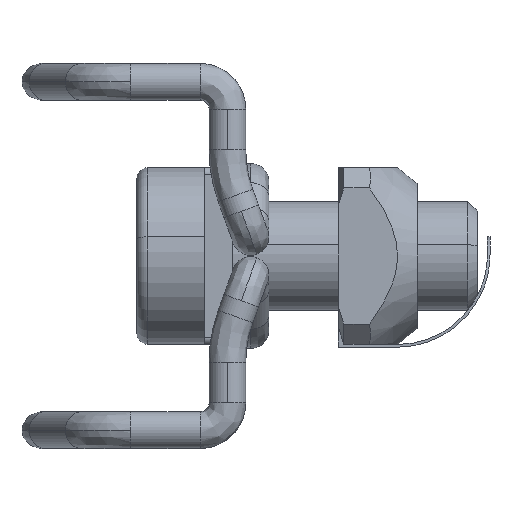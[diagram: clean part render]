
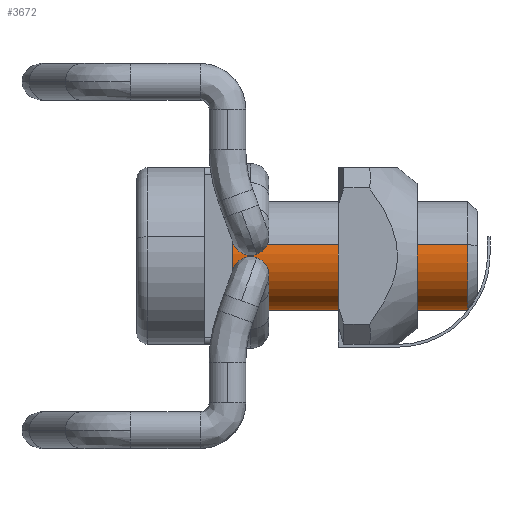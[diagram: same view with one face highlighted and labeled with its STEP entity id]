
A CAD part, left-side view. The second image highlights one B-rep face of the part: STEP entity #3672.
In plain terms, the highlighted cylindrical face has radius 4 mm (diameter 8 mm), a partial arc.
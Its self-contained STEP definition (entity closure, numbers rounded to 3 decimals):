
#64 = AXIS2_PLACEMENT_3D ( 'NONE', #2086, #4753, #1595 ) ;
#656 = EDGE_CURVE ( 'NONE', #6318, #5244, #5045, .T. ) ;
#810 = CYLINDRICAL_SURFACE ( 'NONE', #3811, 4. ) ;
#833 = CARTESIAN_POINT ( 'NONE',  ( -1.904, -15.96, -13.88 ) ) ;
#1185 = VECTOR ( 'NONE', #5440, 1000. ) ;
#1219 = AXIS2_PLACEMENT_3D ( 'NONE', #2756, #1755, #5494 ) ;
#1516 = VERTEX_POINT ( 'NONE', #3484 ) ;
#1595 = DIRECTION ( 'NONE',  ( 0.976, 0., -0.218 ) ) ;
#1687 = CARTESIAN_POINT ( 'NONE',  ( 5.904, -15.96, -15.62 ) ) ;
#1755 = DIRECTION ( 'NONE',  ( 0., 1., 0. ) ) ;
#1878 = ORIENTED_EDGE ( 'NONE', *, *, #5689, .T. ) ;
#1986 = DIRECTION ( 'NONE',  ( -0.976, 0., 0.218 ) ) ;
#2016 = CARTESIAN_POINT ( 'NONE',  ( 2., 40.1, -14.75 ) ) ;
#2086 = CARTESIAN_POINT ( 'NONE',  ( 2., 2.95, -14.75 ) ) ;
#2272 = EDGE_CURVE ( 'NONE', #6318, #3901, #3366, .T. ) ;
#2547 = ORIENTED_EDGE ( 'NONE', *, *, #656, .T. ) ;
#2554 = EDGE_CURVE ( 'NONE', #1516, #3901, #3067, .T. ) ;
#2704 = ORIENTED_EDGE ( 'NONE', *, *, #2554, .T. ) ;
#2756 = CARTESIAN_POINT ( 'NONE',  ( 2., -15.96, -14.75 ) ) ;
#2883 = VECTOR ( 'NONE', #3752, 1000. ) ;
#3067 = CIRCLE ( 'NONE', #64, 4. ) ;
#3366 = LINE ( 'NONE', #4895, #1185 ) ;
#3484 = CARTESIAN_POINT ( 'NONE',  ( -1.904, 2.95, -13.88 ) ) ;
#3671 = EDGE_LOOP ( 'NONE', ( #4409, #2547, #1878, #2704 ) ) ;
#3672 = ADVANCED_FACE ( 'NONE', ( #4995 ), #810, .T. ) ;
#3752 = DIRECTION ( 'NONE',  ( 0., 1., 0. ) ) ;
#3811 = AXIS2_PLACEMENT_3D ( 'NONE', #2016, #4133, #1986 ) ;
#3901 = VERTEX_POINT ( 'NONE', #4244 ) ;
#4133 = DIRECTION ( 'NONE',  ( 0., 1., 0. ) ) ;
#4244 = CARTESIAN_POINT ( 'NONE',  ( 5.904, 2.95, -15.62 ) ) ;
#4409 = ORIENTED_EDGE ( 'NONE', *, *, #2272, .F. ) ;
#4753 = DIRECTION ( 'NONE',  ( 0., -1., 0. ) ) ;
#4895 = CARTESIAN_POINT ( 'NONE',  ( 5.904, 40.1, -15.62 ) ) ;
#4995 = FACE_OUTER_BOUND ( 'NONE', #3671, .T. ) ;
#5045 = CIRCLE ( 'NONE', #1219, 4. ) ;
#5244 = VERTEX_POINT ( 'NONE', #833 ) ;
#5336 = CARTESIAN_POINT ( 'NONE',  ( -1.904, 40.1, -13.88 ) ) ;
#5440 = DIRECTION ( 'NONE',  ( 0., 1., 0. ) ) ;
#5494 = DIRECTION ( 'NONE',  ( -0.976, 0., 0.218 ) ) ;
#5689 = EDGE_CURVE ( 'NONE', #5244, #1516, #6706, .T. ) ;
#6318 = VERTEX_POINT ( 'NONE', #1687 ) ;
#6706 = LINE ( 'NONE', #5336, #2883 ) ;
